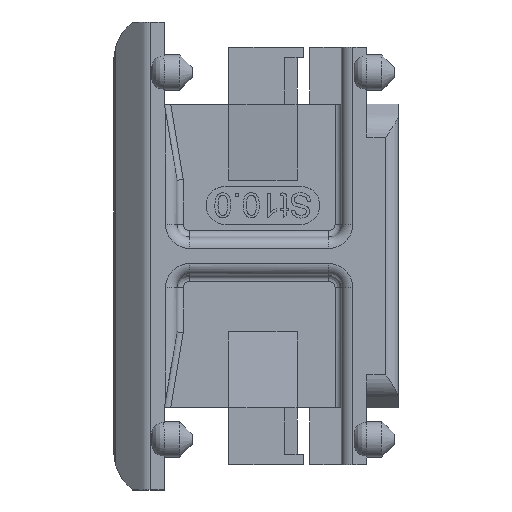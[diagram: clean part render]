
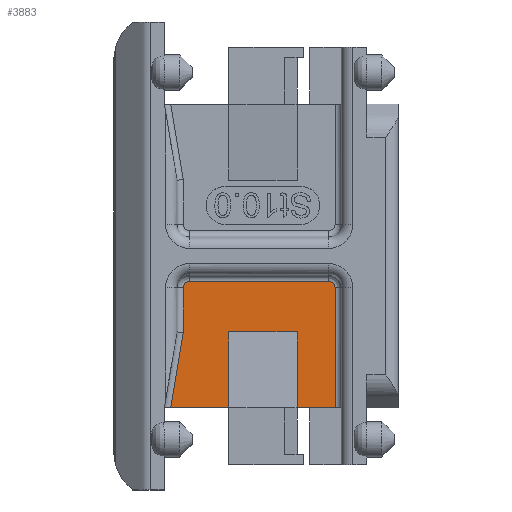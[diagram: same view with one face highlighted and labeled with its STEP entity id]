
A CAD part, top view. The second image highlights one B-rep face of the part: STEP entity #3883.
In plain terms, the highlighted planar face has unit normal (0, 0, 1).
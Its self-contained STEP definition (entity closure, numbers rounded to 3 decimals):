
#1031=CARTESIAN_POINT('',(-6.743,-7.,-0.7));
#1032=VERTEX_POINT('',#1031);
#1040=CARTESIAN_POINT('',(-5.75,-1.041,-0.7));
#1041=VERTEX_POINT('',#1040);
#1042=CARTESIAN_POINT('',(-5.75,-1.041,-0.7));
#1043=DIRECTION('',(-0.164,-0.986,0.0));
#1044=VECTOR('',#1043,6.041);
#1045=LINE('',#1042,#1044);
#1046=EDGE_CURVE('',#1041,#1032,#1045,.T.);
#1073=CARTESIAN_POINT('',(6.25,2.5,-0.7));
#1074=VERTEX_POINT('',#1073);
#1082=CARTESIAN_POINT('',(6.25,-7.,-0.7));
#1083=VERTEX_POINT('',#1082);
#1084=CARTESIAN_POINT('',(6.25,-7.,-0.7));
#1085=DIRECTION('',(0.0,1.0,0.0));
#1086=VECTOR('',#1085,9.5);
#1087=LINE('',#1084,#1086);
#1088=EDGE_CURVE('',#1083,#1074,#1087,.T.);
#1123=CARTESIAN_POINT('',(-5.75,2.5,-0.7));
#1124=VERTEX_POINT('',#1123);
#1125=CARTESIAN_POINT('',(-5.75,2.5,-0.7));
#1126=DIRECTION('',(0.0,-1.0,0.0));
#1127=VECTOR('',#1126,3.541);
#1128=LINE('',#1125,#1127);
#1129=EDGE_CURVE('',#1124,#1041,#1128,.T.);
#1163=CARTESIAN_POINT('',(-5.25,3.,-0.7));
#1164=VERTEX_POINT('',#1163);
#1174=CARTESIAN_POINT('',(5.75,3.,-0.7));
#1175=VERTEX_POINT('',#1174);
#1176=CARTESIAN_POINT('',(5.75,3.,-0.7));
#1177=DIRECTION('',(-1.0,0.0,0.0));
#1178=VECTOR('',#1177,11.);
#1179=LINE('',#1176,#1178);
#1180=EDGE_CURVE('',#1175,#1164,#1179,.T.);
#3043=CARTESIAN_POINT('',(-5.25,2.5,-0.7));
#3044=DIRECTION('',(0.0,0.0,1.));
#3045=DIRECTION('',(-0.707,0.707,0.0));
#3046=AXIS2_PLACEMENT_3D('',#3043,#3044,#3045);
#3047=CIRCLE('',#3046,0.5);
#3048=EDGE_CURVE('',#1164,#1124,#3047,.T.);
#3120=CARTESIAN_POINT('',(5.75,2.5,-0.7));
#3121=DIRECTION('',(0.0,0.0,1.0));
#3122=DIRECTION('',(0.707,0.707,0.0));
#3123=AXIS2_PLACEMENT_3D('',#3120,#3121,#3122);
#3124=CIRCLE('',#3123,0.5);
#3125=EDGE_CURVE('',#1074,#1175,#3124,.T.);
#3485=CARTESIAN_POINT('',(4.717,-7.,-0.7));
#3486=VERTEX_POINT('',#3485);
#3616=CARTESIAN_POINT('',(3.25,-1.,-0.7));
#3617=VERTEX_POINT('',#3616);
#3626=CARTESIAN_POINT('',(-2.15,-1.,-0.7));
#3627=VERTEX_POINT('',#3626);
#3628=CARTESIAN_POINT('',(3.25,-1.,-0.7));
#3629=DIRECTION('',(-1.0,0.0,0.0));
#3630=VECTOR('',#3629,5.4);
#3631=LINE('',#3628,#3630);
#3632=EDGE_CURVE('',#3617,#3627,#3631,.T.);
#3724=CARTESIAN_POINT('',(3.25,-7.,-0.7));
#3725=VERTEX_POINT('',#3724);
#3732=CARTESIAN_POINT('',(3.25,-7.,-0.7));
#3733=DIRECTION('',(0.0,1.0,0.0));
#3734=VECTOR('',#3733,6.);
#3735=LINE('',#3732,#3734);
#3736=EDGE_CURVE('',#3725,#3617,#3735,.T.);
#3747=CARTESIAN_POINT('',(4.717,-7.,-0.7));
#3748=DIRECTION('',(-1.0,0.,0.0));
#3749=VECTOR('',#3748,1.467);
#3750=LINE('',#3747,#3749);
#3751=EDGE_CURVE('',#3486,#3725,#3750,.T.);
#3772=CARTESIAN_POINT('',(6.25,-7.,-0.7));
#3773=DIRECTION('',(-1.0,0.0,0.0));
#3774=VECTOR('',#3773,1.533);
#3775=LINE('',#3772,#3774);
#3776=EDGE_CURVE('',#1083,#3486,#3775,.T.);
#3852=CARTESIAN_POINT('',(-0.247,-2.,-0.7));
#3853=DIRECTION('',(0.0,0.0,-1.0));
#3854=DIRECTION('',(-1.0,0.0,0.0));
#3855=AXIS2_PLACEMENT_3D('',#3852,#3853,#3854);
#3856=PLANE('',#3855);
#3857=ORIENTED_EDGE('',*,*,#1088,.T.);
#3858=ORIENTED_EDGE('',*,*,#3125,.T.);
#3859=ORIENTED_EDGE('',*,*,#1180,.T.);
#3860=ORIENTED_EDGE('',*,*,#3048,.T.);
#3861=ORIENTED_EDGE('',*,*,#1129,.T.);
#3862=ORIENTED_EDGE('',*,*,#1046,.T.);
#3863=CARTESIAN_POINT('',(-2.15,-7.,-0.7));
#3864=VERTEX_POINT('',#3863);
#3865=CARTESIAN_POINT('',(-2.15,-7.,-0.7));
#3866=DIRECTION('',(-1.0,0.0,0.0));
#3867=VECTOR('',#3866,4.593);
#3868=LINE('',#3865,#3867);
#3869=EDGE_CURVE('',#3864,#1032,#3868,.T.);
#3870=ORIENTED_EDGE('',*,*,#3869,.F.);
#3871=CARTESIAN_POINT('',(-2.15,-1.,-0.7));
#3872=DIRECTION('',(0.0,-1.0,0.0));
#3873=VECTOR('',#3872,6.);
#3874=LINE('',#3871,#3873);
#3875=EDGE_CURVE('',#3627,#3864,#3874,.T.);
#3876=ORIENTED_EDGE('',*,*,#3875,.F.);
#3877=ORIENTED_EDGE('',*,*,#3632,.F.);
#3878=ORIENTED_EDGE('',*,*,#3736,.F.);
#3879=ORIENTED_EDGE('',*,*,#3751,.F.);
#3880=ORIENTED_EDGE('',*,*,#3776,.F.);
#3881=EDGE_LOOP('',(#3857,#3858,#3859,#3860,#3861,#3862,#3870,#3876,#3877,#3878,#3879,#3880));
#3882=FACE_OUTER_BOUND('',#3881,.T.);
#3883=ADVANCED_FACE('',(#3882),#3856,.F.);
